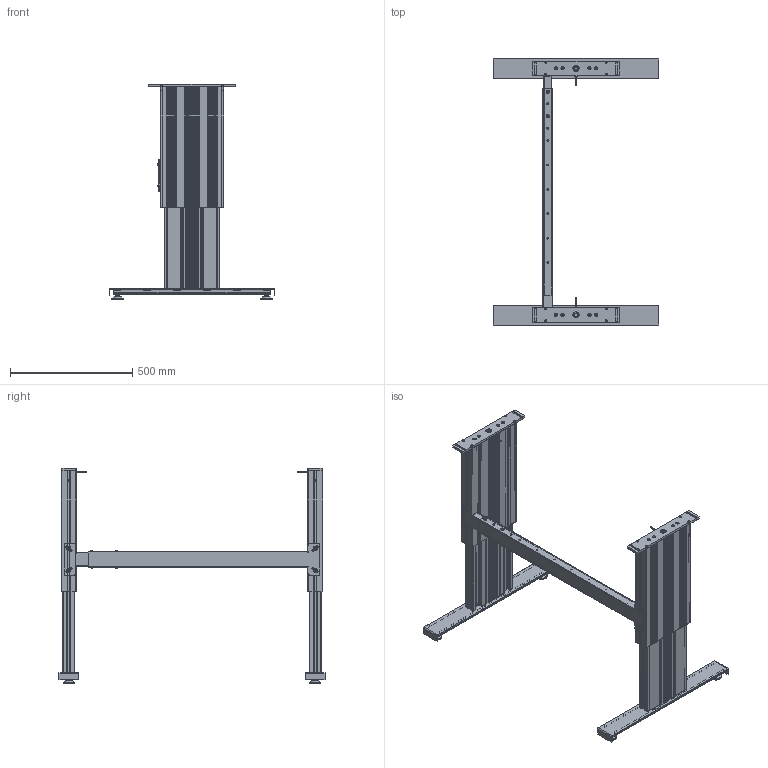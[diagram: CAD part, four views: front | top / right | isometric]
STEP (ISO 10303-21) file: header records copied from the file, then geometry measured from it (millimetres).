
FILE_DESCRIPTION(/* description */ ('Unknown'),/* implementation_level */ '2;1');
FILE_NAME(/* name */ '108.00303_01-Ausgefahren',/* time_stamp */ '2022-02-09T17:05:56+01:00',/* author */ ('Unknown'),/* organization */ ('Unknown'),/* preprocessor_version */ 'ST-DEVELOPER v18.1',/* originating_system */ 'Solid Edge',/* authorisation */ 'Unknown');
FILE_SCHEMA (('AUTOMOTIVE_DESIGN {1 0 10303 214 3 1 1}'));
Products named in the file (38): 108.00303; 306.00629_oa_0; 115.00068_oa_1; 119.00404; 119.00305; 142.00254; 113.00002_70mm; 124.00123; 142.00166; 109.00024_oa_2; 142.00021; 125.00021; 115.00008_oa_3; 125.00063; 126.00146; 142.00081; 142.00031; 306.00629_oa_4; 115.00068_oa_5; 109.00024_oa_6; 115.00008_oa_7; 127.00635; 060339~2; 060340~3; Sechskantmutter M6 DIN 934; Scheibe Ø6,4 DIN 125; Halbrundkopfschraube mit Innensechskant M8x12 ISO 7380-1; Scheibe Ø8,4 DIN 125; Nutenstein M8_montiert; Halbrundkopfschraube mit Innensechskant und Bund M6x16 ISO 7380-2; 127.00515; 127.00520; 127.00556; 127.00557; 127.00520_461_469_Kehlnaht 1_oa_8; 113.00006; 113.00006-ohne Mutter; Mutter M10
Assembly tree (79 placements, depth 4):
  108.00303
    306.00629_oa_0
      115.00068_oa_1
        119.00404
        119.00305
        142.00254  x2
      113.00002_70mm
      124.00123
      142.00166  x4
      109.00024_oa_2
        142.00021
        125.00021
        115.00008_oa_3
        125.00063
        113.00002_70mm
      126.00146
      142.00081
      142.00031
    306.00629_oa_4
      115.00068_oa_5
        119.00404
        119.00305
        142.00254  x2
      113.00002_70mm
      124.00123
      142.00166  x4
      109.00024_oa_6
        142.00021
        125.00021
        115.00008_oa_7
        125.00063
        113.00002_70mm
      126.00146
      142.00081
      142.00031
    127.00635
      060339~2
      060340~3
      Sechskantmutter M6 DIN 934  x4
      Scheibe Ø6,4 DIN 125  x4
      Halbrundkopfschraube mit Innensechskant M8x12 ISO 7380-1  x4
      Scheibe Ø8,4 DIN 125  x4
      Nutenstein M8_montiert  x4
      Halbrundkopfschraube mit Innensechskant und Bund M6x16 ISO 7380-2  x4
    127.00515  x2
      127.00520
        127.00556
        127.00557
        127.00520_461_469_Kehlnaht 1_oa_8
      113.00006
        113.00006-ohne Mutter
        Mutter M10
Bounding box: 680 x 1090 x 882 mm (x, y, z)
Volume: 6980347.4 mm3; surface area: 4340733.4 mm2
Topology: 96 solids, 96 shells, 5790 faces, 16287 edges, 10777 vertices
Faces by surface type: plane 3188, cylinder 2276, cone 128, torus 112, bspline 80, sphere 6
Full cylindrical faces by diameter (mm): 1.8 x4, 2.2 x4, 3 x2, 3.242 x8, 3.4 x2, 3.5 x2, 4 x8, 4.1 x2, 4.2 x2, 5 x10, 5.5 x8, 6 x10, 6.4 x4, 6.6 x8, 6.647 x4, 6.917 x4, 7 x20, 7.5 x16, 8 x10, 8.376 x10, 8.5 x20, 8.7 x8, 9.5 x4, 10 x6, 12 x4, 12.5 x2, 13 x12, 13.5 x2, 13.6 x4, 14 x20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
Entity records: 99943 total; most frequent: CARTESIAN_POINT 17152, ORIENTED_EDGE 14912, DIRECTION 14759, EDGE_CURVE 7456, VERTEX_POINT 5036, AXIS2_PLACEMENT_3D 4960, LINE 4839, VECTOR 4839
